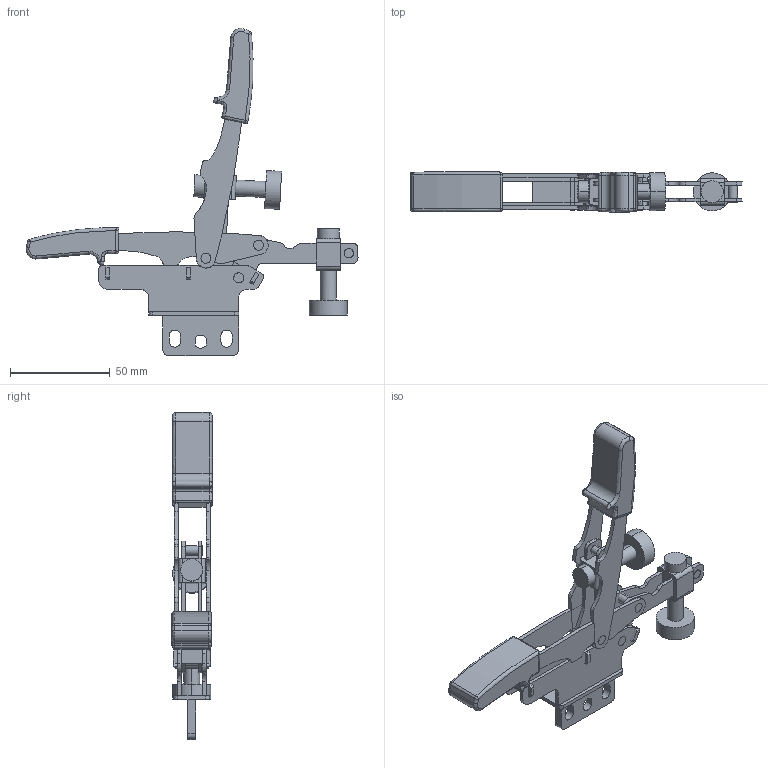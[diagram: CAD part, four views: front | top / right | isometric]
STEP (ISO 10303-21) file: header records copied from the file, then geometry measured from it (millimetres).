
FILE_DESCRIPTION( ( 'STEP AP214' ), '1' );
FILE_NAME( 'X:/CAD_Daten_Platzhalter/STC_HA20/STC_HV20.stp', ' ', ( ' ' ), ( ' ' ), 'PSStep 11.0', ' ', ' ' );
FILE_SCHEMA( ( 'AUTOMOTIVE_DESIGN { 1 0 10303 214 1 1 1 1 }' ) );
Length unit declared in the file: metre
Products named in the file (24): 1; 2; 3; 4; 5; 6; 7; 8; 9; 10; 11; 12; 13; 14; 15; 16; 17; 18; 19; 20; 21; 22; 23; 24
Bounding box: 166.23 x 20.14 x 163.83 mm (x, y, z)
Volume: 35721.7 mm3; surface area: 39894.2 mm2
Topology: 22 solids, 104 shells, 406 faces, 1156 edges, 876 vertices
Faces by surface type: bspline 406
Entity records: 24670 total; most frequent: CARTESIAN_POINT 14632, ORIENTED_EDGE 1948, EDGE_CURVE 1144, B_SPLINE_CURVE_WITH_KNOTS 927, VERTEX_POINT 876, EDGE_LOOP 428, STYLED_ITEM 406, PRESENTATION_STYLE_ASSIGNMENT 406
